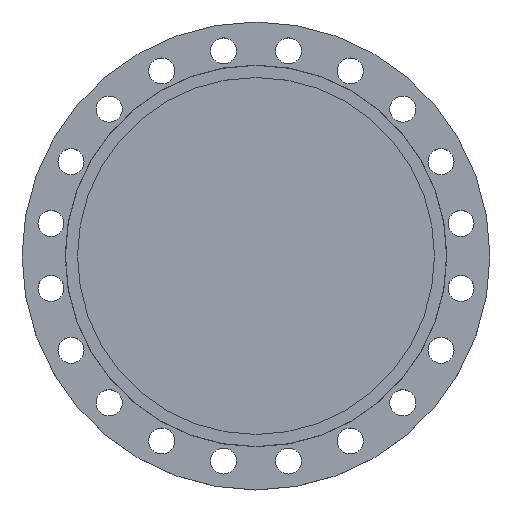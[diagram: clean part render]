
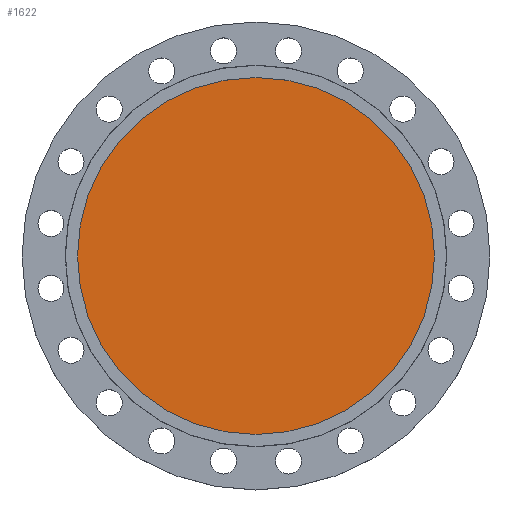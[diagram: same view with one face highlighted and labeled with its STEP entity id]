
A CAD part, top view. The second image highlights one B-rep face of the part: STEP entity #1622.
In plain terms, the highlighted planar face has unit normal (0, 0, 1).
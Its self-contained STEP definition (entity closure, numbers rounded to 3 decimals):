
#28 = DIRECTION ( 'NONE',  ( 0., 0., 1. ) ) ;
#172 = FACE_OUTER_BOUND ( 'NONE', #933, .T. ) ;
#247 = CARTESIAN_POINT ( 'NONE',  ( -288., 0., -5. ) ) ;
#249 = VERTEX_POINT ( 'NONE', #247 ) ;
#274 = CARTESIAN_POINT ( 'NONE',  ( 0., 0., -5. ) ) ;
#332 = CARTESIAN_POINT ( 'NONE',  ( 288., 0., -5. ) ) ;
#381 = AXIS2_PLACEMENT_3D ( 'NONE', #274, #920, #1515 ) ;
#382 = CIRCLE ( 'NONE', #381, 288. ) ;
#482 = AXIS2_PLACEMENT_3D ( 'NONE', #1342, #1897, #598 ) ;
#598 = DIRECTION ( 'NONE',  ( -1., 0., 0. ) ) ;
#661 = DIRECTION ( 'NONE',  ( 1., 0., 0. ) ) ;
#672 = ORIENTED_EDGE ( 'NONE', *, *, #919, .F. ) ;
#686 = ORIENTED_EDGE ( 'NONE', *, *, #1857, .F. ) ;
#711 = CIRCLE ( 'NONE', #482, 288. ) ;
#799 = PLANE ( 'NONE',  #1110 ) ;
#919 = EDGE_CURVE ( 'NONE', #249, #972, #382, .T. ) ;
#920 = DIRECTION ( 'NONE',  ( 0., 0., -1. ) ) ;
#933 = EDGE_LOOP ( 'NONE', ( #672, #686 ) ) ;
#972 = VERTEX_POINT ( 'NONE', #332 ) ;
#1110 = AXIS2_PLACEMENT_3D ( 'NONE', #1390, #28, #661 ) ;
#1342 = CARTESIAN_POINT ( 'NONE',  ( 0., 0., -5. ) ) ;
#1390 = CARTESIAN_POINT ( 'NONE',  ( 288., 0., -5. ) ) ;
#1515 = DIRECTION ( 'NONE',  ( -1., 0., 0. ) ) ;
#1622 = ADVANCED_FACE ( 'NONE', ( #172 ), #799, .T. ) ;
#1857 = EDGE_CURVE ( 'NONE', #972, #249, #711, .T. ) ;
#1897 = DIRECTION ( 'NONE',  ( 0., 0., -1. ) ) ;
